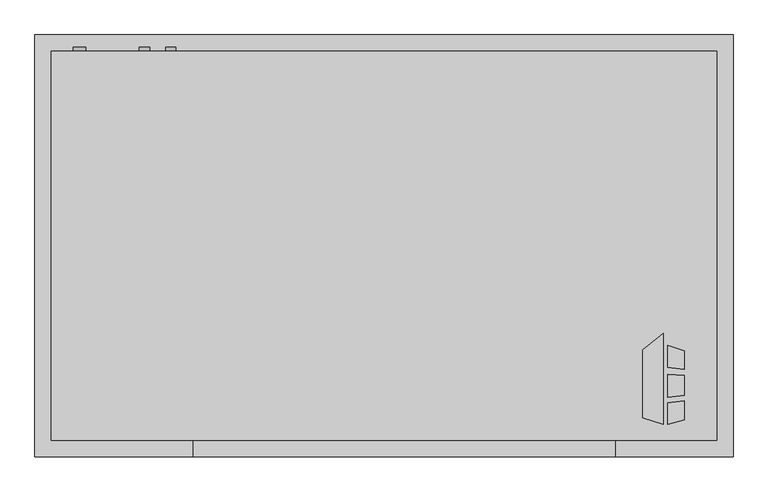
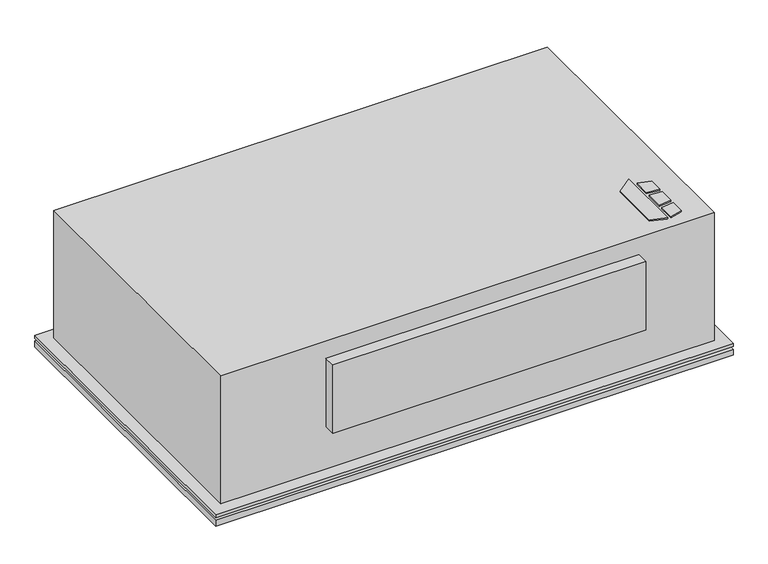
"""IFC4 building model written with IfcOpenShell, lengths in millimetres: proxy geometry, Horizontal_Telescoping_Fan_Coil_Unit_-_CBY_-_IEC_-_2-Pipe_Cool-EHeat_LH_2022 : Size 04 - 277v/60Hz/1Ph - 4 Row 3.0kW."""

from ifc_helpers import new_model, si_unit, point, frame, frame_2d, origin, origin_with_axes, place, context, project, spatial, polyline, circle_curve, trimmed, segment, composite_curve, outline, extrude, source, transform, mapped, element, save


def mechanical_equipment_6b5461d0(model_context):
    return source(origin(), model_context, "Body", "SweptSolid", [
        extrude(outline(polyline([(556.9019761, -401.0078476), (589.4602728, -375.5705184), (589.4602728, -517.525), (556.9019761, -507.3054201), (556.9019761, -401.0078476)])), origin_with_axes(), (0.0, 0.0, 1.0), 3.175),
        extrude(outline(polyline([(596.2186058, -428.879852), (596.2186058, -394.3999379), (622.3, -402.5865115), (622.3, -432.0822446), (596.2186058, -428.879852)])), origin_with_axes(), (0.0, 0.0, 1.0), 3.175),
        extrude(outline(polyline([(622.3, -510.5365115), (596.2186058, -517.525), (596.2186058, -484.3036996), (622.3, -480.7618564), (622.3, -510.5365115)])), origin_with_axes(), (0.0, 0.0, 1.0), 3.175),
        extrude(outline(polyline([(622.3, -441.1638277), (622.3, -472.413983), (596.2186058, -475.155248), (596.2186058, -439.2975378), (622.3, -441.1638277)])), origin_with_axes(), (0.0, 0.0, 1.0), 3.175),
        extrude(outline(composite_curve([segment(trimmed(circle_curve(frame_2d((-55.9967777, -180.975)), 7.9375), [point((-55.9967777, -173.0375))], [point((-55.9967777, -188.9125))], False, "CARTESIAN"), True, "CONTINUOUS"), segment(trimmed(circle_curve(frame_2d((-55.9967777, -180.975)), 7.9375), [point((-55.9967777, -188.9125))], [point((-55.9967777, -173.0375))], False, "CARTESIAN"), True, "CONTINUOUS")], self_intersect=False)), frame((0.0, 66.675, 0.0), z_axis=(0.0, 1.0, 0.0), x_axis=(0.0, 0.0, 1.0)), (0.0, 0.0, 1.0), 6.35),
        extrude(outline(composite_curve([segment(trimmed(circle_curve(frame_2d((-122.5981268, -222.25)), 7.9375), [point((-122.5981268, -214.3125))], [point((-122.5981268, -230.1875))], False, "CARTESIAN"), True, "CONTINUOUS"), segment(trimmed(circle_curve(frame_2d((-122.5981268, -222.25)), 7.9375), [point((-122.5981268, -230.1875))], [point((-122.5981268, -214.3125))], False, "CARTESIAN"), True, "CONTINUOUS")], self_intersect=False)), frame((0.0, 66.675, 0.0), z_axis=(0.0, 1.0, 0.0), x_axis=(0.0, 0.0, 1.0)), (0.0, 0.0, 1.0), 6.35),
        extrude(outline(composite_curve([segment(trimmed(circle_curve(frame_2d((-247.6037358, -323.85)), 9.525), [point((-247.6037358, -314.325))], [point((-247.6037358, -333.375))], False, "CARTESIAN"), True, "CONTINUOUS"), segment(trimmed(circle_curve(frame_2d((-247.6037358, -323.85)), 9.525), [point((-247.6037358, -333.375))], [point((-247.6037358, -314.325))], False, "CARTESIAN"), True, "CONTINUOUS")], self_intersect=False)), frame((0.0, 66.675, 0.0), z_axis=(0.0, 1.0, 0.0), x_axis=(0.0, 0.0, 1.0)), (0.0, 0.0, 1.0), 6.35),
        extrude(outline(polyline([(698.5, 92.075), (698.5, -568.325), (-393.7, -568.325), (-393.7, 92.075), (698.5, 92.075)])), frame((0.0, 0.0, -311.15), z_axis=(0.0, 0.0, 1.0), x_axis=(1.0, 0.0, 0.0)), (0.0, 0.0, 1.0), 12.7),
        extrude(outline(polyline([(698.5, 92.075), (698.5, -568.325), (-393.7, -568.325), (-393.7, 92.075), (698.5, 92.075)])), frame((0.0, 0.0, -292.1), z_axis=(0.0, 0.0, 1.0), x_axis=(1.0, 0.0, 0.0)), (0.0, 0.0, 1.0), 6.35),
        extrude(outline(polyline([(673.1, 66.675), (673.1, -542.925), (-368.3, -542.925), (-368.3, 66.675), (673.1, 66.675)])), frame((0.0, 0.0, -298.45), z_axis=(0.0, 0.0, 1.0), x_axis=(1.0, 0.0, 0.0)), (0.0, 0.0, 1.0), 6.35),
        extrude(outline(polyline([(514.35, -568.325), (-146.05, -568.325), (-146.05, -542.925), (514.35, -542.925), (514.35, -568.325)])), frame((0.0, 0.0, -190.5), z_axis=(0.0, 0.0, 1.0), x_axis=(1.0, 0.0, 0.0)), (0.0, 0.0, 1.0), 152.4),
        extrude(outline(polyline([(-368.3, 66.675), (673.1, 66.675), (673.1, -542.925), (-368.3, -542.925), (-368.3, 66.675)])), frame((0.0, 0.0, -285.75), z_axis=(0.0, 0.0, 1.0), x_axis=(1.0, 0.0, 0.0)), (0.0, 0.0, 1.0), 285.75),
        extrude(outline(polyline([(571.5, -9.525), (571.5, -263.525), (-266.7, -263.525), (-266.7, -9.525), (571.5, -9.525)])), frame((0.0, 0.0, -317.5), z_axis=(0.0, 0.0, 1.0), x_axis=(1.0, 0.0, 0.0)), (0.0, 0.0, 1.0), 6.35),
    ])


if __name__ == "__main__":
    model = new_model("IFC4")
    model_context = context("Model", 3, world=origin())
    ifc_project = project(units=[si_unit("LENGTHUNIT", "METRE", prefix="MILLI")], contexts=[model_context])
    site = spatial("IfcSite", under=ifc_project)
    building = spatial("IfcBuilding", under=site)
    placement = place(None, origin())
    mechanical_equipment_shape = mechanical_equipment_6b5461d0(model_context)
    element("IfcBuildingElementProxy", 1, Name="Horizontal_Telescoping_Fan_Coil_Unit_-_CBY_-_IEC_-_2-Pipe_Cool-EHeat_LH_2022 : Size 04 - 277v/60Hz/1Ph - 4 Row 3.0kW", ObjectType="Horizontal_Telescoping_Fan_Coil_Unit_-_CBY_-_IEC_-_2-Pipe_Cool-EHeat_LH_2022 : Size 04 - 277v/60Hz/1Ph - 4 Row 3.0kW", at=placement, inside=building, context=model_context, shape_type="MappedRepresentation", body=[
        mapped(mechanical_equipment_shape, transform((0.0, 0.0, 0.0), x_axis=(1.0, 0.0, 0.0), y_axis=(0.0, 1.0, 0.0), z_axis=(0.0, 0.0, 1.0))),
    ])
    save(model, "model.ifc")
